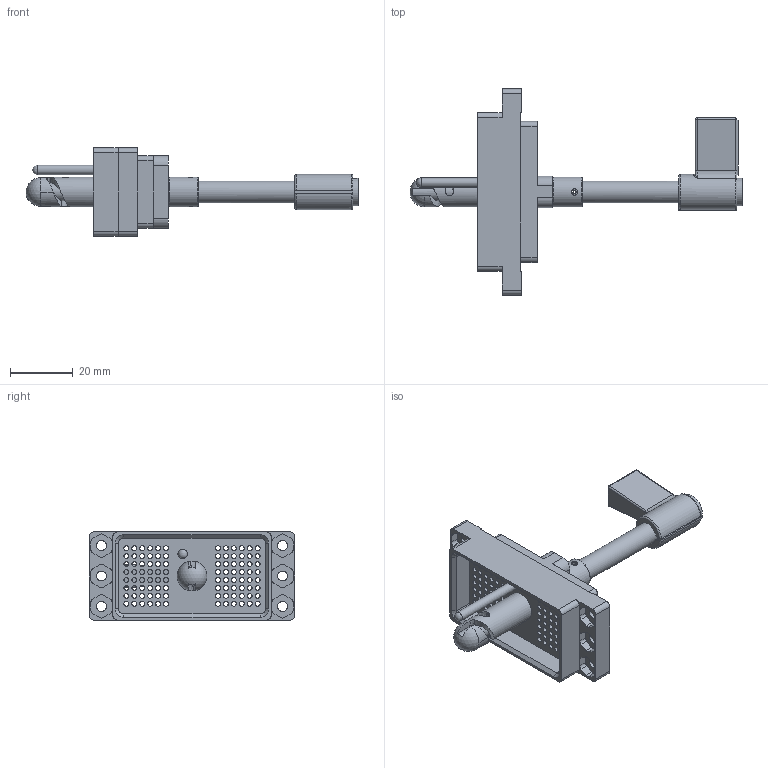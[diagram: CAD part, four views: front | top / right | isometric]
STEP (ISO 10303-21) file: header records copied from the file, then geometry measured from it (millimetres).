
FILE_DESCRIPTION((''),'2;1');
FILE_NAME('C:\old_Drawings\shrinkwrapped website .stp files\LIF-0096-M-STP.stp','2011-07-12T13:27:28',('GaryRobinson'),(''),'Autodesk Inventor 2011','Autodesk Inventor 2011','');
FILE_SCHEMA(('CONFIG_CONTROL_DESIGN'));
Length unit declared in the file: inch
Products named in the file (1): LIF-0096-M-STP
Bounding box: 106.15 x 65.84 x 28.14 mm (x, y, z)
Surface area: 20643.8 mm2 (no closed solid volume)
Topology: 0 solids, 11 shells, 921 faces, 2007 edges, 1320 vertices
Faces by surface type: plane 438, cylinder 393, bspline 57, cone 14, torus 12, sphere 7
Full cylindrical faces by diameter (mm): 0.002 x1, 1.524 x96, 1.549 x192, 1.984 x4, 2.642 x1, 2.946 x1, 3 x1, 3.175 x6, 3.505 x1, 4.343 x1, 5.4 x1, 5.486 x1, 5.994 x2, 6.685 x1, 6.985 x2, 6.998 x1, 7.036 x1, 7.3 x1, 8.712 x1, 9.2 x1, 9.52 x1, 9.525 x1
Entity records: 26709 total; most frequent: CARTESIAN_POINT 6253, DIRECTION 4037, ORIENTED_EDGE 3280, AXIS2_PLACEMENT_3D 1706, EDGE_LOOP 1695, EDGE_CURVE 1640, VERTEX_POINT 1297, FACE_OUTER_BOUND 920
